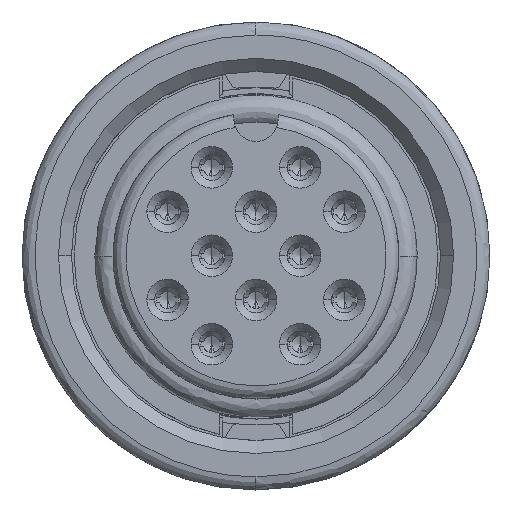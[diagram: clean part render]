
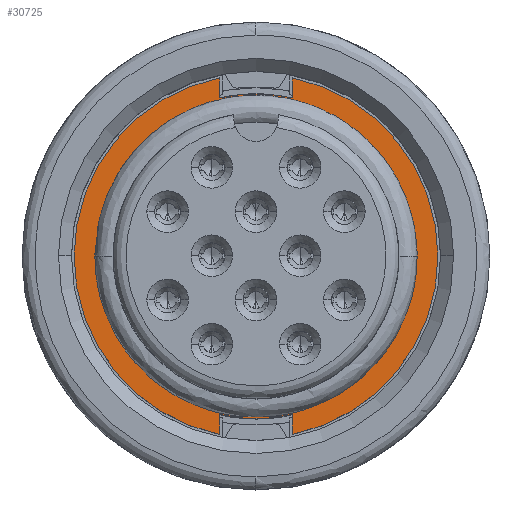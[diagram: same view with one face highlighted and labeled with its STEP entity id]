
A CAD part, top view. The second image highlights one B-rep face of the part: STEP entity #30725.
In plain terms, the highlighted planar face has unit normal (0, 0, 1).
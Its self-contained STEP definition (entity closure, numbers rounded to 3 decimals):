
#222 = VECTOR ( 'NONE', #29801, 1000. ) ;
#246 = CIRCLE ( 'NONE', #2534, 7. ) ;
#491 = CARTESIAN_POINT ( 'NONE',  ( 0., 0., -7.8 ) ) ;
#610 = CARTESIAN_POINT ( 'NONE',  ( 0., 5.5, -7.8 ) ) ;
#615 = CARTESIAN_POINT ( 'NONE',  ( -1.4, -6.091, -7.8 ) ) ;
#971 = AXIS2_PLACEMENT_3D ( 'NONE', #6036, #2191, #34618 ) ;
#1323 = ORIENTED_EDGE ( 'NONE', *, *, #42210, .T. ) ;
#2191 = DIRECTION ( 'NONE',  ( 0., 0., 1. ) ) ;
#2534 = AXIS2_PLACEMENT_3D ( 'NONE', #34984, #42457, #25324 ) ;
#3391 = VERTEX_POINT ( 'NONE', #44072 ) ;
#5573 = ORIENTED_EDGE ( 'NONE', *, *, #10118, .T. ) ;
#5641 = CARTESIAN_POINT ( 'NONE',  ( -1.4, -6.859, -7.8 ) ) ;
#5939 = EDGE_CURVE ( 'NONE', #10139, #26851, #36694, .T. ) ;
#6036 = CARTESIAN_POINT ( 'NONE',  ( 0., 0., -7.8 ) ) ;
#6792 = DIRECTION ( 'NONE',  ( -1., 0., 0. ) ) ;
#6886 = AXIS2_PLACEMENT_3D ( 'NONE', #13942, #43239, #40315 ) ;
#7093 = CARTESIAN_POINT ( 'NONE',  ( -1.4, 0., -7.8 ) ) ;
#9119 = CIRCLE ( 'NONE', #9906, 5.5 ) ;
#9906 = AXIS2_PLACEMENT_3D ( 'NONE', #22746, #30437, #15348 ) ;
#10118 = EDGE_CURVE ( 'NONE', #46980, #3391, #27591, .T. ) ;
#10139 = VERTEX_POINT ( 'NONE', #46484 ) ;
#10579 = VERTEX_POINT ( 'NONE', #610 ) ;
#12494 = VERTEX_POINT ( 'NONE', #44767 ) ;
#12746 = LINE ( 'NONE', #27353, #15364 ) ;
#13277 = CIRCLE ( 'NONE', #971, 7. ) ;
#13673 = VECTOR ( 'NONE', #29485, 1000. ) ;
#13942 = CARTESIAN_POINT ( 'NONE',  ( 0., 0., -7.8 ) ) ;
#14085 = CIRCLE ( 'NONE', #30155, 5.5 ) ;
#14192 = EDGE_LOOP ( 'NONE', ( #1323, #25143 ) ) ;
#15075 = ORIENTED_EDGE ( 'NONE', *, *, #5939, .T. ) ;
#15183 = CARTESIAN_POINT ( 'NONE',  ( -1.4, 0., -7.8 ) ) ;
#15348 = DIRECTION ( 'NONE',  ( -1., 0., 0. ) ) ;
#15350 = EDGE_CURVE ( 'NONE', #45735, #12494, #30039, .T. ) ;
#15364 = VECTOR ( 'NONE', #16848, 1000. ) ;
#16438 = VERTEX_POINT ( 'NONE', #30240 ) ;
#16848 = DIRECTION ( 'NONE',  ( 0., -1., 0. ) ) ;
#17340 = DIRECTION ( 'NONE',  ( 1., 0., 0. ) ) ;
#17374 = EDGE_CURVE ( 'NONE', #16438, #10139, #246, .T. ) ;
#18020 = DIRECTION ( 'NONE',  ( 0., 0., 1. ) ) ;
#20048 = EDGE_CURVE ( 'NONE', #10579, #23092, #14085, .T. ) ;
#21433 = ORIENTED_EDGE ( 'NONE', *, *, #15350, .T. ) ;
#21683 = ORIENTED_EDGE ( 'NONE', *, *, #36235, .T. ) ;
#22325 = CARTESIAN_POINT ( 'NONE',  ( -1.4, 6.091, -7.8 ) ) ;
#22746 = CARTESIAN_POINT ( 'NONE',  ( 0., 0., -7.8 ) ) ;
#23092 = VERTEX_POINT ( 'NONE', #35357 ) ;
#25143 = ORIENTED_EDGE ( 'NONE', *, *, #20048, .T. ) ;
#25254 = DIRECTION ( 'NONE',  ( 0., 0., -1. ) ) ;
#25324 = DIRECTION ( 'NONE',  ( -1., 0., 0. ) ) ;
#25420 = PLANE ( 'NONE',  #34404 ) ;
#25671 = DIRECTION ( 'NONE',  ( 0., 0., 1. ) ) ;
#26851 = VERTEX_POINT ( 'NONE', #36271 ) ;
#26875 = VERTEX_POINT ( 'NONE', #5641 ) ;
#27353 = CARTESIAN_POINT ( 'NONE',  ( 1.4, 0., -7.8 ) ) ;
#27591 = CIRCLE ( 'NONE', #6886, 6.25 ) ;
#28636 = CARTESIAN_POINT ( 'NONE',  ( 0., 0., -7.8 ) ) ;
#29227 = VECTOR ( 'NONE', #39534, 1000. ) ;
#29485 = DIRECTION ( 'NONE',  ( 0., -1., 0. ) ) ;
#29729 = ORIENTED_EDGE ( 'NONE', *, *, #45766, .T. ) ;
#29795 = ORIENTED_EDGE ( 'NONE', *, *, #34636, .T. ) ;
#29801 = DIRECTION ( 'NONE',  ( 0., 1., 0. ) ) ;
#30039 = LINE ( 'NONE', #15183, #222 ) ;
#30155 = AXIS2_PLACEMENT_3D ( 'NONE', #28636, #25254, #6792 ) ;
#30240 = CARTESIAN_POINT ( 'NONE',  ( 1.4, -6.859, -7.8 ) ) ;
#30437 = DIRECTION ( 'NONE',  ( 0., 0., -1. ) ) ;
#30725 = ADVANCED_FACE ( 'NONE', ( #36241, #39882 ), #25420, .T. ) ;
#32842 = EDGE_CURVE ( 'NONE', #26875, #46980, #46531, .T. ) ;
#34404 = AXIS2_PLACEMENT_3D ( 'NONE', #43725, #18020, #17340 ) ;
#34618 = DIRECTION ( 'NONE',  ( -1., 0., 0. ) ) ;
#34636 = EDGE_CURVE ( 'NONE', #12494, #26875, #13277, .T. ) ;
#34984 = CARTESIAN_POINT ( 'NONE',  ( 0., 0., -7.8 ) ) ;
#35357 = CARTESIAN_POINT ( 'NONE',  ( 0., -5.5, -7.8 ) ) ;
#36235 = EDGE_CURVE ( 'NONE', #3391, #16438, #12746, .T. ) ;
#36241 = FACE_OUTER_BOUND ( 'NONE', #42486, .T. ) ;
#36271 = CARTESIAN_POINT ( 'NONE',  ( 1.4, 6.091, -7.8 ) ) ;
#36694 = LINE ( 'NONE', #47529, #13673 ) ;
#37172 = ORIENTED_EDGE ( 'NONE', *, *, #32842, .T. ) ;
#37993 = CIRCLE ( 'NONE', #41103, 6.25 ) ;
#39534 = DIRECTION ( 'NONE',  ( 0., 1., 0. ) ) ;
#39882 = FACE_BOUND ( 'NONE', #14192, .T. ) ;
#40315 = DIRECTION ( 'NONE',  ( -1., 0., 0. ) ) ;
#41103 = AXIS2_PLACEMENT_3D ( 'NONE', #491, #25671, #44926 ) ;
#42210 = EDGE_CURVE ( 'NONE', #23092, #10579, #9119, .T. ) ;
#42457 = DIRECTION ( 'NONE',  ( 0., 0., 1. ) ) ;
#42486 = EDGE_LOOP ( 'NONE', ( #21683, #44443, #15075, #29729, #21433, #29795, #37172, #5573 ) ) ;
#43239 = DIRECTION ( 'NONE',  ( 0., 0., 1. ) ) ;
#43725 = CARTESIAN_POINT ( 'NONE',  ( 0., 0., -7.8 ) ) ;
#44072 = CARTESIAN_POINT ( 'NONE',  ( 1.4, -6.091, -7.8 ) ) ;
#44443 = ORIENTED_EDGE ( 'NONE', *, *, #17374, .T. ) ;
#44767 = CARTESIAN_POINT ( 'NONE',  ( -1.4, 6.859, -7.8 ) ) ;
#44926 = DIRECTION ( 'NONE',  ( -1., 0., 0. ) ) ;
#45735 = VERTEX_POINT ( 'NONE', #22325 ) ;
#45766 = EDGE_CURVE ( 'NONE', #26851, #45735, #37993, .T. ) ;
#46484 = CARTESIAN_POINT ( 'NONE',  ( 1.4, 6.859, -7.8 ) ) ;
#46531 = LINE ( 'NONE', #7093, #29227 ) ;
#46980 = VERTEX_POINT ( 'NONE', #615 ) ;
#47529 = CARTESIAN_POINT ( 'NONE',  ( 1.4, 0., -7.8 ) ) ;
